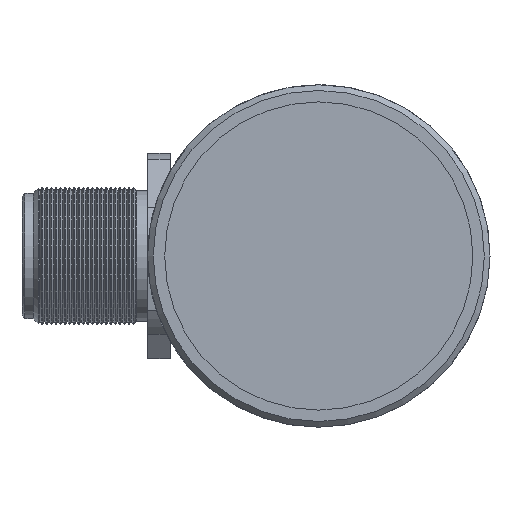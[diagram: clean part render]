
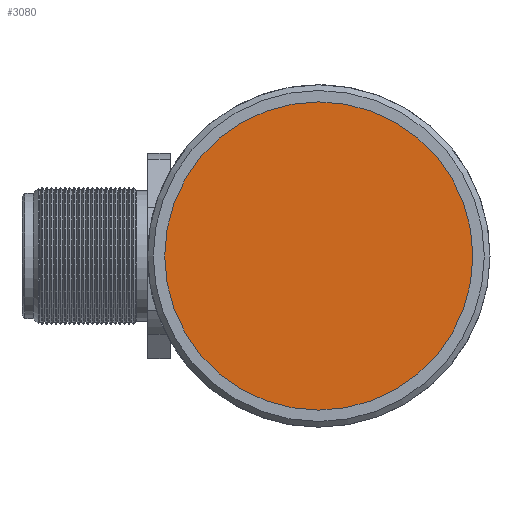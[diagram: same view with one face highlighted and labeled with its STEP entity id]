
A CAD part, left-side view. The second image highlights one B-rep face of the part: STEP entity #3080.
In plain terms, the highlighted planar face has unit normal (-1, 0, 0).
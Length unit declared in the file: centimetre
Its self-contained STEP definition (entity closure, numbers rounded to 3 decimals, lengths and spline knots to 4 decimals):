
#689=PLANE('',#3323);
#768=VERTEX_POINT('',#4414);
#1037=CIRCLE('',#3322,1.35);
#1218=EDGE_CURVE('',#768,#768,#1037,.T.);
#1642=ORIENTED_EDGE('',*,*,#1218,.T.);
#2398=EDGE_LOOP('',(#1642));
#2744=FACE_BOUND('',#2398,.T.);
#3080=ADVANCED_FACE('',(#2744),#689,.F.);
#3322=AXIS2_PLACEMENT_3D('',#4413,#3685,#3686);
#3323=AXIS2_PLACEMENT_3D('',#4415,#3687,$);
#3685=DIRECTION('',(-1.,0.,0.));
#3686=DIRECTION('',(0.,0.,-1.35));
#3687=DIRECTION('',(1.,0.,0.));
#4413=CARTESIAN_POINT('',(-3.3,0.,0.));
#4414=CARTESIAN_POINT('',(-3.3,0.,-1.35));
#4415=CARTESIAN_POINT('',(-3.3,0.,0.));
